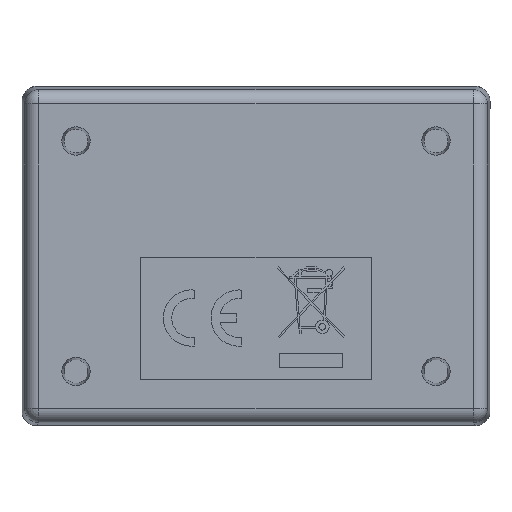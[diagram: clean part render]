
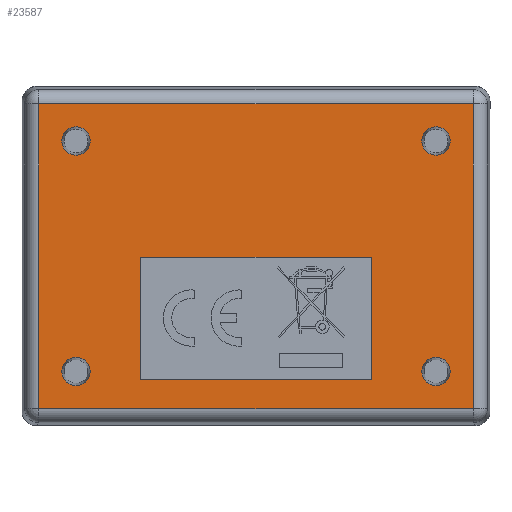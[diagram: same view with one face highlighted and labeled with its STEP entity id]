
A CAD part, front view. The second image highlights one B-rep face of the part: STEP entity #23587.
In plain terms, the highlighted planar face has unit normal (0, -1, 0) as drawn and (0, 0, -1) by its records, which use the part's own axes.
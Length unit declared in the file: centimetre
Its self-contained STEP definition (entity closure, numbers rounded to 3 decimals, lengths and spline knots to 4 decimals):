
#7945=CIRCLE('',#24512,0.1249);
#7946=CIRCLE('',#24513,0.1249);
#7947=CIRCLE('',#24514,0.1249);
#7948=CIRCLE('',#24515,0.1249);
#8757=VERTEX_POINT('',#30614);
#8758=VERTEX_POINT('',#30616);
#8760=VERTEX_POINT('',#30622);
#8762=VERTEX_POINT('',#30628);
#8883=VERTEX_POINT('',#31700);
#8884=VERTEX_POINT('',#31702);
#8885=VERTEX_POINT('',#31704);
#8886=VERTEX_POINT('',#31706);
#8887=VERTEX_POINT('',#31708);
#8888=VERTEX_POINT('',#31709);
#8889=VERTEX_POINT('',#31711);
#8890=VERTEX_POINT('',#31713);
#10513=VECTOR('',#26296,1.);
#10516=VECTOR('',#26300,1.);
#10519=VECTOR('',#26304,1.);
#10522=VECTOR('',#26308,1.);
#10683=VECTOR('',#26541,1.);
#10684=VECTOR('',#26542,1.);
#10685=VECTOR('',#26543,1.);
#10686=VECTOR('',#26544,1.);
#12414=LINE('',#30615,#10513);
#12417=LINE('',#30621,#10516);
#12420=LINE('',#30627,#10519);
#12423=LINE('',#30632,#10522);
#12584=LINE('',#31707,#10683);
#12585=LINE('',#31710,#10684);
#12586=LINE('',#31712,#10685);
#12587=LINE('',#31714,#10686);
#14414=EDGE_CURVE('',#8758,#8757,#12414,.F.);
#14417=EDGE_CURVE('',#8760,#8758,#12417,.F.);
#14420=EDGE_CURVE('',#8762,#8760,#12420,.F.);
#14423=EDGE_CURVE('',#8757,#8762,#12423,.F.);
#14604=EDGE_CURVE('',#8883,#8883,#7945,.F.);
#14605=EDGE_CURVE('',#8884,#8884,#7946,.F.);
#14606=EDGE_CURVE('',#8885,#8885,#7947,.F.);
#14607=EDGE_CURVE('',#8886,#8886,#7948,.F.);
#14608=EDGE_CURVE('',#8887,#8888,#12584,.T.);
#14609=EDGE_CURVE('',#8889,#8887,#12585,.T.);
#14610=EDGE_CURVE('',#8890,#8889,#12586,.T.);
#14611=EDGE_CURVE('',#8888,#8890,#12587,.T.);
#17905=ORIENTED_EDGE('',*,*,#14604,.T.);
#17906=ORIENTED_EDGE('',*,*,#14605,.T.);
#17907=ORIENTED_EDGE('',*,*,#14606,.T.);
#17908=ORIENTED_EDGE('',*,*,#14607,.T.);
#17909=ORIENTED_EDGE('',*,*,#14608,.F.);
#17910=ORIENTED_EDGE('',*,*,#14609,.F.);
#17911=ORIENTED_EDGE('',*,*,#14610,.F.);
#17912=ORIENTED_EDGE('',*,*,#14611,.F.);
#17913=ORIENTED_EDGE('',*,*,#14414,.T.);
#17914=ORIENTED_EDGE('',*,*,#14423,.T.);
#17915=ORIENTED_EDGE('',*,*,#14420,.T.);
#17916=ORIENTED_EDGE('',*,*,#14417,.T.);
#21609=EDGE_LOOP('',(#17905));
#21610=EDGE_LOOP('',(#17906));
#21611=EDGE_LOOP('',(#17907));
#21612=EDGE_LOOP('',(#17908));
#21613=EDGE_LOOP('',(#17909,#17910,#17911,#17912));
#21614=EDGE_LOOP('',(#17913,#17914,#17915,#17916));
#22609=FACE_BOUND('',#21609,.T.);
#22610=FACE_BOUND('',#21610,.T.);
#22611=FACE_BOUND('',#21611,.T.);
#22612=FACE_BOUND('',#21612,.T.);
#22613=FACE_BOUND('',#21613,.T.);
#22614=FACE_BOUND('',#21614,.T.);
#23587=ADVANCED_FACE('',(#22609,#22610,#22611,#22612,#22613,#22614),#37641,
 .F.);
#24511=AXIS2_PLACEMENT_3D('',#31698,#26532,$);
#24512=AXIS2_PLACEMENT_3D('',#31699,#26533,#26534);
#24513=AXIS2_PLACEMENT_3D('',#31701,#26535,#26536);
#24514=AXIS2_PLACEMENT_3D('',#31703,#26537,#26538);
#24515=AXIS2_PLACEMENT_3D('',#31705,#26539,#26540);
#26296=DIRECTION('',(-1.,0.,0.));
#26300=DIRECTION('',(0.,1.,0.));
#26304=DIRECTION('',(1.,0.,0.));
#26308=DIRECTION('',(0.,-1.,0.));
#26532=DIRECTION('',(0.,0.,1.));
#26533=DIRECTION('',(0.,0.,-1.));
#26534=DIRECTION('',(-0.125,0.,0.));
#26535=DIRECTION('',(0.,0.,-1.));
#26536=DIRECTION('',(-0.125,0.,0.));
#26537=DIRECTION('',(0.,0.,-1.));
#26538=DIRECTION('',(-0.125,0.,0.));
#26539=DIRECTION('',(0.,0.,-1.));
#26540=DIRECTION('',(-0.125,0.,0.));
#26541=DIRECTION('',(-1.,0.,0.));
#26542=DIRECTION('',(0.,1.,0.));
#26543=DIRECTION('',(1.,0.,0.));
#26544=DIRECTION('',(0.,-1.,0.));
#30614=CARTESIAN_POINT('',(1.091,-1.0176,-0.0032));
#30615=CARTESIAN_POINT('',(0.1374,-1.0176,-0.0032));
#30616=CARTESIAN_POINT('',(0.0083,-1.0176,-0.0032));
#30621=CARTESIAN_POINT('',(0.0083,0.,-0.0032));
#30622=CARTESIAN_POINT('',(0.0083,1.0176,-0.0032));
#30627=CARTESIAN_POINT('',(0.1374,1.0176,-0.0032));
#30628=CARTESIAN_POINT('',(1.091,1.0176,-0.0032));
#30632=CARTESIAN_POINT('',(1.091,0.,-0.0032));
#31698=CARTESIAN_POINT('',(0.,0.,-0.0032));
#31699=CARTESIAN_POINT('',(1.016,1.5875,-0.0032));
#31700=CARTESIAN_POINT('',(1.1409,1.5875,-0.0032));
#31701=CARTESIAN_POINT('',(1.016,-1.5875,-0.0032));
#31702=CARTESIAN_POINT('',(1.1409,-1.5875,-0.0032));
#31703=CARTESIAN_POINT('',(-1.016,-1.5875,-0.0032));
#31704=CARTESIAN_POINT('',(-0.8911,-1.5875,-0.0032));
#31705=CARTESIAN_POINT('',(-1.016,1.5875,-0.0032));
#31706=CARTESIAN_POINT('',(-0.8911,1.5875,-0.0032));
#31707=CARTESIAN_POINT('',(0.,1.9149,-0.0032));
#31708=CARTESIAN_POINT('',(1.3434,1.9149,-0.0032));
#31709=CARTESIAN_POINT('',(-1.3434,1.9149,-0.0032));
#31710=CARTESIAN_POINT('',(1.3434,0.,-0.0032));
#31711=CARTESIAN_POINT('',(1.3434,-1.9149,-0.0032));
#31712=CARTESIAN_POINT('',(0.,-1.9149,-0.0032));
#31713=CARTESIAN_POINT('',(-1.3434,-1.9149,-0.0032));
#31714=CARTESIAN_POINT('',(-1.3434,0.,-0.0032));
#37641=PLANE('',#24511);
